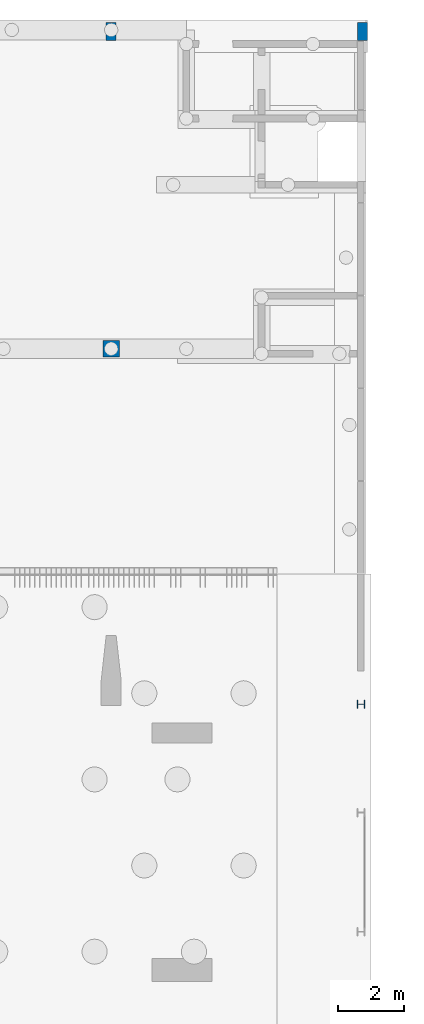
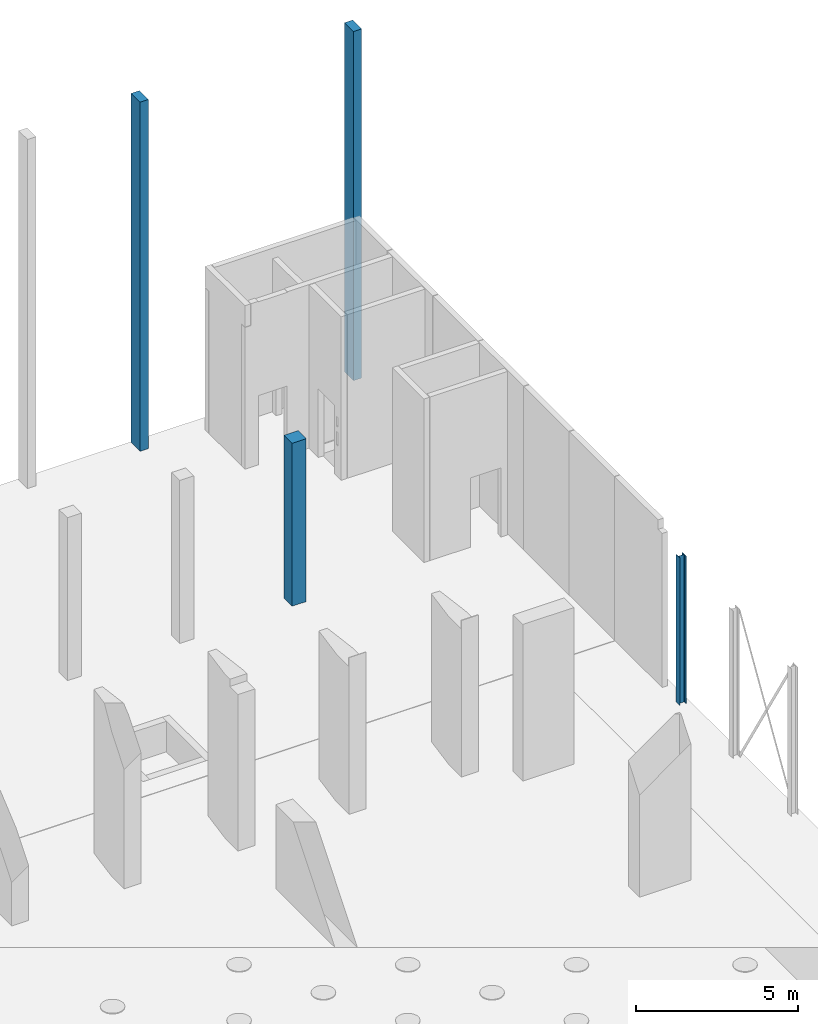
# One storey, part 15 of 26: 4 columns.
"""IFC2X3 building model written with IfcOpenShell, lengths in millimetres."""

from ifc_helpers import new_model, entity, si_unit, converted_unit, derived_unit, direction, frame, frame_2d, origin, origin_2d_with_axis, place, context, subcontext, project, spatial, polyline, circle_curve, parameter, trimmed, segment, composite_curve, rectangle, outline, extrude, source, transform, mapped, material, type_object, type_shapes, element, save


model = new_model("IFC2X3")

# Units and contexts
model_context = context("Model", 3, precision=0.01, world=origin(), true_north=direction((6.12303176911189e-17, 1.0)))
body_context = subcontext(model_context, "Body", "Model", "MODEL_VIEW")
ifc_project = project(units=[si_unit("LENGTHUNIT", "METRE", prefix="MILLI"), si_unit("AREAUNIT", "SQUARE_METRE"), si_unit("VOLUMEUNIT", "CUBIC_METRE"), converted_unit("PLANEANGLEUNIT", "DEGREE", entity("IfcRatioMeasure", 0.0174532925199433), si_unit("PLANEANGLEUNIT", "RADIAN"), dimensions=[0, 0, 0, 0, 0, 0, 0]), si_unit("MASSUNIT", "GRAM", prefix="KILO"), derived_unit("MASSDENSITYUNIT", [(si_unit("MASSUNIT", "GRAM", prefix="KILO"), 1), (si_unit("LENGTHUNIT", "METRE"), -3)]), si_unit("TIMEUNIT", "SECOND"), si_unit("FREQUENCYUNIT", "HERTZ"), si_unit("THERMODYNAMICTEMPERATUREUNIT", "DEGREE_CELSIUS"), derived_unit("THERMALTRANSMITTANCEUNIT", [(si_unit("MASSUNIT", "GRAM", prefix="KILO"), 1), (si_unit("THERMODYNAMICTEMPERATUREUNIT", "KELVIN"), -1), (si_unit("TIMEUNIT", "SECOND"), -3)]), derived_unit("VOLUMETRICFLOWRATEUNIT", [(si_unit("LENGTHUNIT", "METRE"), 3), (si_unit("TIMEUNIT", "SECOND"), -1)]), si_unit("ELECTRICCURRENTUNIT", "AMPERE"), si_unit("ELECTRICVOLTAGEUNIT", "VOLT"), si_unit("POWERUNIT", "WATT"), si_unit("FORCEUNIT", "NEWTON", prefix="KILO"), si_unit("ILLUMINANCEUNIT", "LUX"), si_unit("LUMINOUSFLUXUNIT", "LUMEN"), si_unit("LUMINOUSINTENSITYUNIT", "CANDELA"), derived_unit("USERDEFINED", [(si_unit("MASSUNIT", "GRAM", prefix="KILO"), -1), (si_unit("LENGTHUNIT", "METRE"), -2), (si_unit("TIMEUNIT", "SECOND"), 3), (si_unit("LUMINOUSFLUXUNIT", "LUMEN"), 1)]), derived_unit("LINEARVELOCITYUNIT", [(si_unit("LENGTHUNIT", "METRE"), 1), (si_unit("TIMEUNIT", "SECOND"), -1)]), si_unit("PRESSUREUNIT", "PASCAL"), derived_unit("USERDEFINED", [(si_unit("LENGTHUNIT", "METRE"), -2), (si_unit("MASSUNIT", "GRAM", prefix="KILO"), 1), (si_unit("TIMEUNIT", "SECOND"), -2)])], contexts=[model_context])

# Site, building, storey
site_placement = place(None, origin())
site = spatial("IfcSite", under=ifc_project, at=site_placement, Name="Default", CompositionType="ELEMENT")
building_placement = place(site_placement, origin())
building = spatial("IfcBuilding", under=site, at=building_placement, Name="niet gebruiken", CompositionType="ELEMENT")
storey_placement = place(building_placement, origin())
storey = spatial("IfcBuildingStorey", under=building, at=storey_placement, Name="00 begane grond", CompositionType="ELEMENT", Elevation=0.0)

# Columns
ifc_material_1 = material(Name="NLRS_f2_beton prefab")
column_type_1 = type_object("IfcColumnType", Name="500x500", PredefinedType="COLUMN", material=ifc_material_1)
shared_shape_1 = source(origin(), body_context, "Body", "SweptSolid", [
    extrude(rectangle(XDim=499.999999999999, YDim=500.000000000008, at=frame_2d((0.0, -1.73230318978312e-11), x_axis=(1.0, 0.0))), frame((155750.0, 43500.0, -220.0), z_axis=(0.0, 0.0, 1.0), x_axis=(0.0, -1.0, 0.0)), (0.0, 0.0, 1.0), 6130.0),
])
type_shapes(column_type_1, [shared_shape_1])
column_1_placement = place(storey_placement, origin())
element("IfcColumn", 1, at=column_1_placement, inside=storey, type_object=column_type_1, material=ifc_material_1, Name="NLRS_28. kolom vierkant_gen:500x500", ObjectType="500x500", context=body_context, shape_type="MappedRepresentation", body=[
    mapped(shared_shape_1, transform((0.0, 0.0, 0.0), scale=1.0)),
])
column_type_2 = type_object("IfcColumnType", Name="300x550", PredefinedType="COLUMN", material=ifc_material_1)
shared_shape_2 = source(origin(), body_context, "Body", "SweptSolid", [
    extrude(rectangle(XDim=549.999999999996, YDim=300.000000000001, at=origin_2d_with_axis()), frame((155750.0, 53075.0, -220.0), z_axis=(0.0, 0.0, 1.0), x_axis=(0.0, -1.0, 0.0)), (0.0, 0.0, 1.0), 13130.0),
])
type_shapes(column_type_2, [shared_shape_2])
column_2_placement = place(storey_placement, origin())
element("IfcColumn", 2, at=column_2_placement, inside=storey, type_object=column_type_2, material=ifc_material_1, Name="NLRS_28. kolom vierkant_gen:300x550", ObjectType="300x550", context=body_context, shape_type="MappedRepresentation", body=[
    mapped(shared_shape_2, transform((0.0, 0.0, 0.0), scale=1.0)),
])
column_type_3 = type_object("IfcColumnType", Name="300x550", PredefinedType="COLUMN", material=ifc_material_1)
shared_shape_3 = source(origin(), body_context, "Body", "SweptSolid", [
    extrude(rectangle(XDim=549.999999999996, YDim=300.000000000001, at=origin_2d_with_axis()), frame((163340.0, 53075.0, -220.0), z_axis=(0.0, 0.0, 1.0), x_axis=(0.0, -1.0, 0.0)), (0.0, 0.0, 1.0), 13130.0),
])
type_shapes(column_type_3, [shared_shape_3])
column_3_placement = place(storey_placement, origin())
element("IfcColumn", 3, at=column_3_placement, inside=storey, type_object=column_type_3, material=ifc_material_1, Name="NLRS_28. kolom vierkant_gen:300x550", ObjectType="300x550", context=body_context, shape_type="MappedRepresentation", body=[
    mapped(shared_shape_3, transform((0.0, 0.0, 0.0), scale=1.0)),
])
ifc_material_2 = material(Name="NLRS_h2_staal")
column_type_4 = type_object("IfcColumnType", Name="kolom HEA 240", PredefinedType="COLUMN", material=ifc_material_2)
shared_shape_4 = source(origin(), body_context, "Body", "SweptSolid", [
    extrude(outline(composite_curve([segment(polyline([(103.0, -120.0), (115.0, -120.0)]), True, "CONTINUOUS"), segment(polyline([(115.0, -120.0), (115.0, 120.0)]), True, "CONTINUOUS"), segment(polyline([(115.0, 120.0), (103.0, 120.0)]), True, "CONTINUOUS"), segment(polyline([(103.0, 120.0), (103.0, 24.7499999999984)]), True, "CONTINUOUS"), segment(trimmed(circle_curve(frame_2d((82.0, 24.7499999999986), x_axis=(1.0, 0.0)), 21.0), [parameter(270.0)], [parameter(0.0)], True, "PARAMETER"), False, "CONTINUOUS"), segment(polyline([(82.0, 3.74999999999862), (-82.0, 3.74999999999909)]), True, "CONTINUOUS"), segment(trimmed(circle_curve(frame_2d((-82.0, 24.7499999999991), x_axis=(0.0, -1.0)), 21.0), [parameter(270.0)], [parameter(0.0)], True, "PARAMETER"), False, "CONTINUOUS"), segment(polyline([(-103.0, 24.7499999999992), (-103.0, 120.0)]), True, "CONTINUOUS"), segment(polyline([(-103.0, 120.0), (-115.0, 120.0)]), True, "CONTINUOUS"), segment(polyline([(-115.0, 120.0), (-115.0, -120.0)]), True, "CONTINUOUS"), segment(polyline([(-115.0, -120.0), (-103.0, -120.0)]), True, "CONTINUOUS"), segment(polyline([(-103.0, -120.0), (-103.0, -24.7500000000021)]), True, "CONTINUOUS"), segment(trimmed(circle_curve(frame_2d((-82.0, -24.7500000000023), x_axis=(-1.0, 0.0)), 21.0), [parameter(270.0)], [parameter(0.0)], True, "PARAMETER"), False, "CONTINUOUS"), segment(polyline([(-82.0, -3.75000000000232), (82.0, -3.75000000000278)]), True, "CONTINUOUS"), segment(trimmed(circle_curve(frame_2d((82.0, -24.7500000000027), x_axis=(0.0, 1.0)), 21.0), [parameter(270.0)], [parameter(0.0)], True, "PARAMETER"), False, "CONTINUOUS"), segment(polyline([(103.0, -24.7500000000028), (103.0, -120.0)]), True, "CONTINUOUS")], self_intersect=False)), frame((0.0, 0.0, -220.0), z_axis=(0.0, 0.0, 1.0), x_axis=(0.0, -1.0, 0.0)), (0.0, 0.0, 1.0), 5545.0),
])
type_shapes(column_type_4, [shared_shape_4])
column_4_placement = place(storey_placement, frame((163290.0, 32770.0, 0.0), z_axis=(0.0, 0.0, 1.0), x_axis=(0.0, 1.0, 0.0)))
element("IfcColumn", 4, at=column_4_placement, inside=storey, type_object=column_type_4, material=ifc_material_2, Name="NLRS_28.11_SCO_TLB_stalen kolom HEA_gen:kolom HEA 240", ObjectType="kolom HEA 240", context=body_context, shape_type="MappedRepresentation", body=[
    mapped(shared_shape_4, transform((0.0, 0.0, 0.0), scale=1.0)),
])

save(model, "model.ifc")
